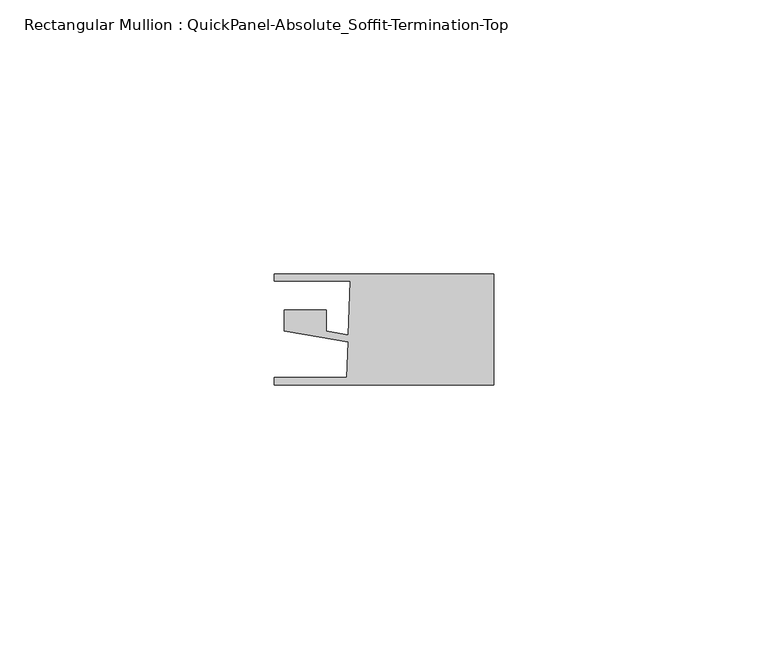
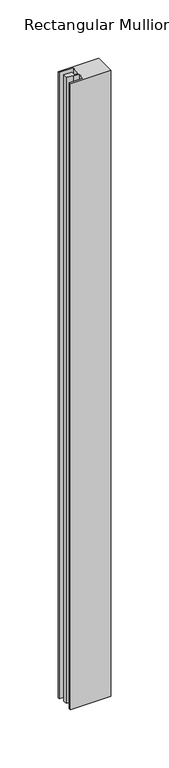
"""IFC4 building model written with IfcOpenShell, lengths in millimetres: member geometry, Rectangular Mullion : QuickPanel-Absolute_Soffit-Termination-Top."""

from ifc_helpers import new_model, si_unit, frame, origin, place, context, project, spatial, polyline, outline, extrude, source, transform, mapped, element, save


def rectangular_mullion_quickpanel_absolute_soffit_termination_7d0f6c1f(model_context):
    return source(origin(), model_context, "Body", "SweptSolid", [
        extrude(outline(polyline([(-40.0272216, -8.095605), (-40.0272216, -6.6935423), (-26.7863089, -6.6935423), (-26.5595237, -0.1992641), (-31.8098046, 0.7008023), (-38.2451373, 1.8040245), (-38.2451373, 5.6493034), (-30.5003642, 5.6493034), (-30.5003642, 1.7648465), (-26.5147952, 1.0815922), (-26.1708682, 10.9303752), (-40.0272216, 10.9303752), (-40.0272216, 12.1803727), (0.0, 12.1803727), (0.0, -8.095605), (-40.0272216, -8.095605)])), frame((0.0, 0.0, -654.9485599), z_axis=(0.0, 0.0, 1.0), x_axis=(1.0, 0.0, 0.0)), (0.0, 0.0, 1.0), 654.9485599),
    ])


if __name__ == "__main__":
    model = new_model("IFC4")
    model_context = context("Model", 3, world=origin())
    ifc_project = project(units=[si_unit("LENGTHUNIT", "METRE", prefix="MILLI")], contexts=[model_context])
    site = spatial("IfcSite", under=ifc_project)
    building = spatial("IfcBuilding", under=site)
    placement = place(None, origin())
    rectangular_mullion_quickpanel_absolute_soffit_termination_shape = rectangular_mullion_quickpanel_absolute_soffit_termination_7d0f6c1f(model_context)
    element("IfcMember", 1, ObjectType="Rectangular Mullion : QuickPanel-Absolute_Soffit-Termination-Top", at=placement, inside=building, context=model_context, shape_type="MappedRepresentation", body=[
        mapped(rectangular_mullion_quickpanel_absolute_soffit_termination_shape, transform((0.0, 0.0, 0.0), x_axis=(1.0, 0.0, 0.0), y_axis=(0.0, 1.0, 0.0), z_axis=(0.0, 0.0, 1.0))),
    ])
    save(model, "model.ifc")
